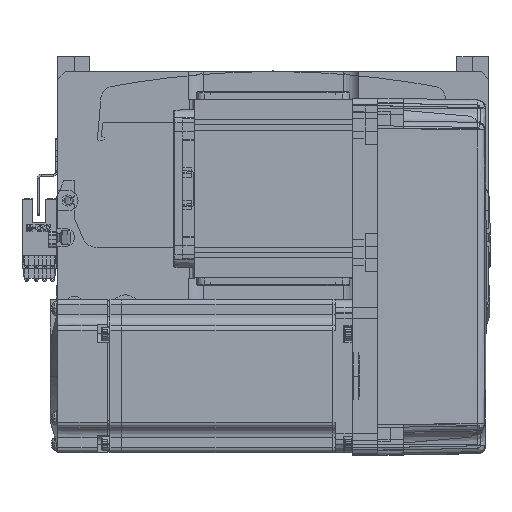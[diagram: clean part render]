
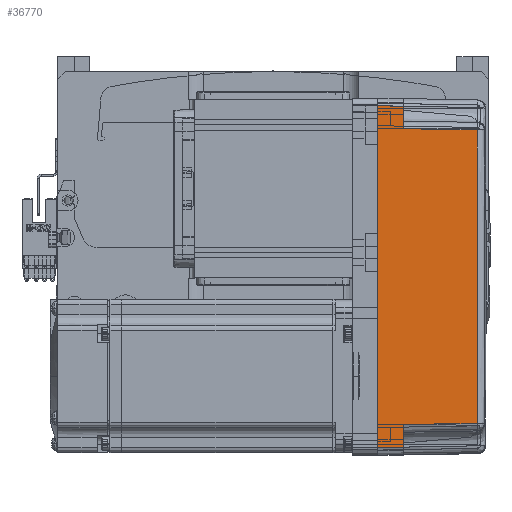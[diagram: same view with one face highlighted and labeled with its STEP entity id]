
A CAD part, top view. The second image highlights one B-rep face of the part: STEP entity #36770.
In plain terms, the highlighted planar face has unit normal (0.018, 0, 1) as drawn and (0, 1, 0.017) by its records, which use the part's own axes.
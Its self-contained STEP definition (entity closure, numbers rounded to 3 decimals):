
#1198 = DIRECTION ( 'NONE',  ( 1., 0., 0. ) ) ;
#2382 = CARTESIAN_POINT ( 'NONE',  ( 70., 36., 0. ) ) ;
#3748 = ORIENTED_EDGE ( 'NONE', *, *, #35220, .T. ) ;
#3854 = CARTESIAN_POINT ( 'NONE',  ( -19.165, 35.316, 39.181 ) ) ;
#4884 = AXIS2_PLACEMENT_3D ( 'NONE', #2382, #19107, #41548 ) ;
#5884 = DIRECTION ( 'NONE',  ( -0.017, -0.017, 1. ) ) ;
#9149 = VERTEX_POINT ( 'NONE', #68996 ) ;
#9501 = LINE ( 'NONE', #51023, #10335 ) ;
#10335 = VECTOR ( 'NONE', #57336, 1000. ) ;
#11194 = VECTOR ( 'NONE', #45555, 1000. ) ;
#12063 = DIRECTION ( 'NONE',  ( 0.017, -0.017, 1. ) ) ;
#14963 = CARTESIAN_POINT ( 'NONE',  ( 19.165, 35.316, 39.181 ) ) ;
#15874 = CARTESIAN_POINT ( 'NONE',  ( -66.826, 35.825, 10. ) ) ;
#16872 = ORIENTED_EDGE ( 'NONE', *, *, #61605, .T. ) ;
#17008 = ORIENTED_EDGE ( 'NONE', *, *, #37339, .F. ) ;
#17095 = FACE_OUTER_BOUND ( 'NONE', #24506, .T. ) ;
#19045 = VECTOR ( 'NONE', #12063, 1000. ) ;
#19107 = DIRECTION ( 'NONE',  ( 0., 1., 0.017 ) ) ;
#20073 = CARTESIAN_POINT ( 'NONE',  ( -57.495, 35.32, 38.985 ) ) ;
#20155 = CARTESIAN_POINT ( 'NONE',  ( 57.495, 35.32, 38.985 ) ) ;
#21690 = VERTEX_POINT ( 'NONE', #24417 ) ;
#22653 = ORIENTED_EDGE ( 'NONE', *, *, #63428, .T. ) ;
#24058 = CARTESIAN_POINT ( 'NONE',  ( 67., 36., 0. ) ) ;
#24164 = LINE ( 'NONE', #34217, #11194 ) ;
#24417 = CARTESIAN_POINT ( 'NONE',  ( -58., 35.825, 10. ) ) ;
#24506 = EDGE_LOOP ( 'NONE', ( #27661, #16872, #3748, #52367, #24973, #22653, #46031, #17008 ) ) ;
#24568 = CARTESIAN_POINT ( 'NONE',  ( -67., 36., 0. ) ) ;
#24973 = ORIENTED_EDGE ( 'NONE', *, *, #41458, .T. ) ;
#26645 = CARTESIAN_POINT ( 'NONE',  ( -57.495, 35.32, 38.985 ) ) ;
#27661 = ORIENTED_EDGE ( 'NONE', *, *, #66055, .T. ) ;
#27873 = DIRECTION ( 'NONE',  ( 1., 0., 0. ) ) ;
#29124 = VECTOR ( 'NONE', #27873, 1000. ) ;
#32007 = LINE ( 'NONE', #67865, #19045 ) ;
#32200 = VERTEX_POINT ( 'NONE', #24568 ) ;
#34217 = CARTESIAN_POINT ( 'NONE',  ( 70., 35.825, 10. ) ) ;
#35220 = EDGE_CURVE ( 'NONE', #21690, #37324, #9501, .T. ) ;
#36770 = ADVANCED_FACE ( 'NONE', ( #17095 ), #52177, .T. ) ;
#37324 = VERTEX_POINT ( 'NONE', #26645 ) ;
#37339 = EDGE_CURVE ( 'NONE', #32200, #56689, #68845, .T. ) ;
#39294 = DIRECTION ( 'NONE',  ( 0.017, 0.017, -1. ) ) ;
#39409 = CARTESIAN_POINT ( 'NONE',  ( 70., 35.825, 10. ) ) ;
#40068 = VERTEX_POINT ( 'NONE', #49286 ) ;
#41458 = EDGE_CURVE ( 'NONE', #65217, #9149, #66377, .T. ) ;
#41548 = DIRECTION ( 'NONE',  ( 0., -0.017, 1. ) ) ;
#44471 = LINE ( 'NONE', #48360, #67871 ) ;
#45555 = DIRECTION ( 'NONE',  ( 1., 0., 0. ) ) ;
#46031 = ORIENTED_EDGE ( 'NONE', *, *, #64022, .F. ) ;
#48033 = VECTOR ( 'NONE', #1198, 1000. ) ;
#48360 = CARTESIAN_POINT ( 'NONE',  ( 67.001, 36.001, -0.052 ) ) ;
#48404 = CARTESIAN_POINT ( 'NONE',  ( 0., 36., 0. ) ) ;
#48409 = EDGE_CURVE ( 'NONE', #37324, #65217, #64350, .T. ) ;
#49286 = CARTESIAN_POINT ( 'NONE',  ( 66.826, 35.825, 10. ) ) ;
#49894 = VECTOR ( 'NONE', #39294, 1000. ) ;
#51023 = CARTESIAN_POINT ( 'NONE',  ( -58., 35.825, 10. ) ) ;
#52177 = PLANE ( 'NONE',  #4884 ) ;
#52367 = ORIENTED_EDGE ( 'NONE', *, *, #48409, .T. ) ;
#56689 = VERTEX_POINT ( 'NONE', #24058 ) ;
#57336 = DIRECTION ( 'NONE',  ( 0.017, -0.017, 1. ) ) ;
#61400 = VERTEX_POINT ( 'NONE', #15874 ) ;
#61605 = EDGE_CURVE ( 'NONE', #61400, #21690, #24164, .T. ) ;
#63428 = EDGE_CURVE ( 'NONE', #9149, #40068, #67100, .T. ) ;
#64022 = EDGE_CURVE ( 'NONE', #56689, #40068, #44471, .T. ) ;
#64350 = B_SPLINE_CURVE_WITH_KNOTS ( 'NONE', 3,
 ( #20073, #3854, #14963, #69365 ),
 .UNSPECIFIED., .F., .F.,
 ( 4, 4 ),
 ( 0., 1. ),
 .UNSPECIFIED. ) ;
#65217 = VERTEX_POINT ( 'NONE', #20155 ) ;
#66055 = EDGE_CURVE ( 'NONE', #32200, #61400, #32007, .T. ) ;
#66199 = CARTESIAN_POINT ( 'NONE',  ( 57.495, 35.32, 38.985 ) ) ;
#66377 = LINE ( 'NONE', #66199, #49894 ) ;
#67100 = LINE ( 'NONE', #39409, #48033 ) ;
#67865 = CARTESIAN_POINT ( 'NONE',  ( -67., 36., 0. ) ) ;
#67871 = VECTOR ( 'NONE', #5884, 1000. ) ;
#68845 = LINE ( 'NONE', #48404, #29124 ) ;
#68996 = CARTESIAN_POINT ( 'NONE',  ( 58., 35.825, 10. ) ) ;
#69365 = CARTESIAN_POINT ( 'NONE',  ( 57.495, 35.32, 38.985 ) ) ;
